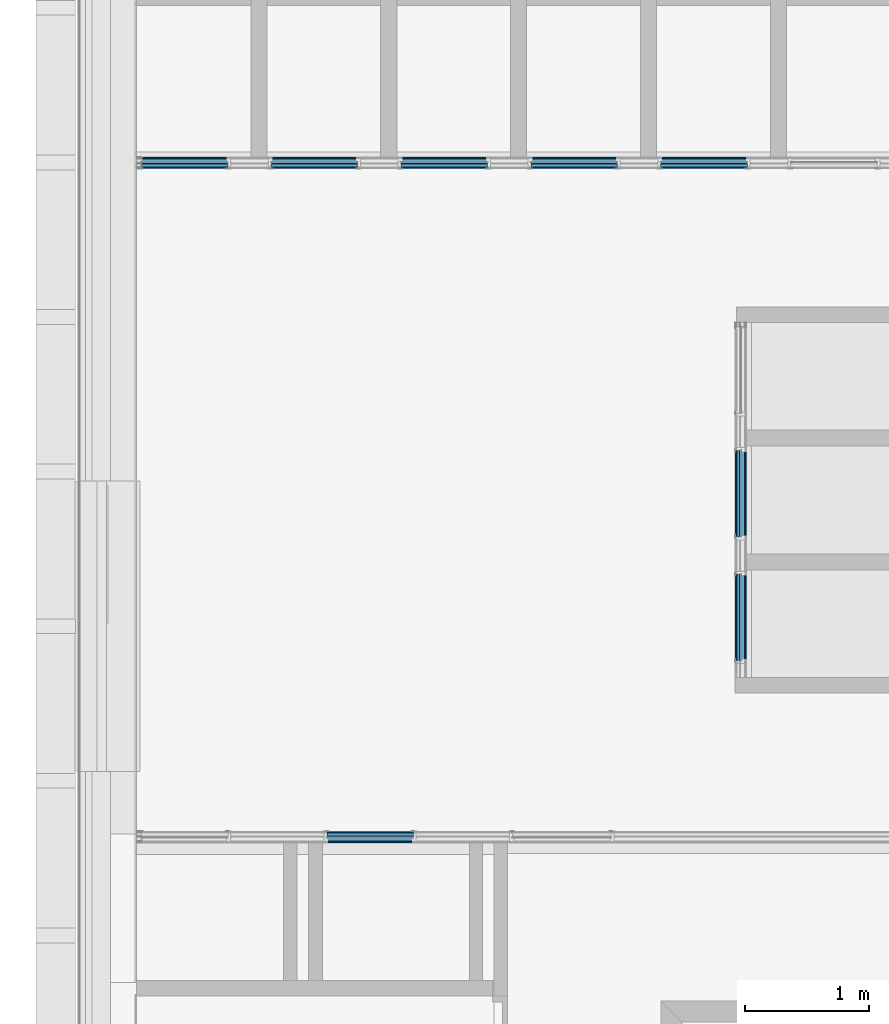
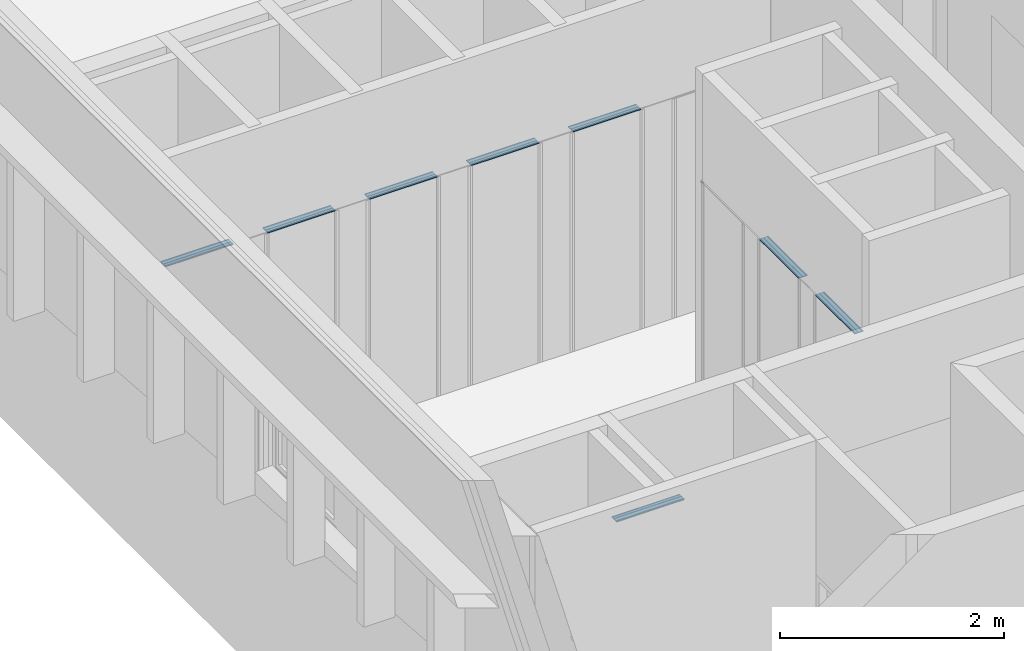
# One storey, part 27 of 89: 32 building element parts, 11 elements without a shape of their own.
"""IFC2X3 building model written with IfcOpenShell, lengths in millimetres."""

from ifc_helpers import new_model, entity, si_unit, converted_unit, derived_unit, money_unit, direction, frame, origin_with_axes, place, context, subcontext, project, spatial, faceted_brep, source, transform, mapped, material, type_object, element, aggregate, save


model = new_model("IFC2X3")

# Units and contexts
model_context = context("Model", 3, precision=0.01, world=origin_with_axes(), true_north=direction((0.0, 1.0)))
body_context = subcontext(model_context, "Body", "Model", "MODEL_VIEW")
ifc_project = project(units=[si_unit("LENGTHUNIT", "METRE", prefix="MILLI"), si_unit("AREAUNIT", "SQUARE_METRE"), si_unit("VOLUMEUNIT", "CUBIC_METRE"), converted_unit("PLANEANGLEUNIT", "DEGREE", entity("IfcPlaneAngleMeasure", 0.0174532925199), si_unit("PLANEANGLEUNIT", "RADIAN"), dimensions=[0, 0, 0, 0, 0, 0, 0]), si_unit("SOLIDANGLEUNIT", "STERADIAN"), money_unit("EUR"), converted_unit("TIMEUNIT", "Year", entity("IfcTimeMeasure", 31556926.0), si_unit("TIMEUNIT", "SECOND"), dimensions=[0, 0, 1, 0, 0, 0, 0]), si_unit("MASSUNIT", "GRAM", prefix="KILO"), si_unit("THERMODYNAMICTEMPERATUREUNIT", "DEGREE_CELSIUS"), si_unit("LUMINOUSINTENSITYUNIT", "LUMEN"), si_unit("ENERGYUNIT", "JOULE", prefix="MEGA"), derived_unit("THERMALCONDUCTANCEUNIT", [(si_unit("POWERUNIT", "WATT"), 1), (si_unit("LENGTHUNIT", "METRE"), -1), (si_unit("THERMODYNAMICTEMPERATUREUNIT", "KELVIN"), -1)]), derived_unit("SPECIFICHEATCAPACITYUNIT", [(si_unit("ENERGYUNIT", "JOULE"), 1), (si_unit("MASSUNIT", "GRAM", prefix="KILO"), -1), (si_unit("THERMODYNAMICTEMPERATUREUNIT", "KELVIN"), -1)]), derived_unit("MASSDENSITYUNIT", [(si_unit("MASSUNIT", "GRAM", prefix="KILO"), 1), (si_unit("VOLUMEUNIT", "CUBIC_METRE"), -1)])], contexts=[model_context])

# Site, building, storey
site_placement = place(None, origin_with_axes())
site = spatial("IfcSite", under=ifc_project, at=site_placement, Name="Puškini 31, Narva", CompositionType="ELEMENT")
building_placement = place(site_placement, origin_with_axes())
building = spatial("IfcBuilding", under=site, at=building_placement, Name="Narva Riigigümnaasium", CompositionType="ELEMENT")
storey_placement = place(building_placement, frame((0.0, 0.0, -3300.0), z_axis=(0.0, 0.0, 1.0), x_axis=(1.0, 0.0, 0.0)))
storey = spatial("IfcBuildingStorey", under=building, at=storey_placement, Name="1.korrus -3.3", CompositionType="ELEMENT", Elevation=-3300.0)

# Curtain wall, plates, building element parts
curtain_wall_type = type_object("IfcCurtainWallType", Name="Curtain Wall Type", PredefinedType="NOTDEFINED")
curtain_wall_1_placement = place(storey_placement, frame((33249.9999781, 201010.999711, -1.71671428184e-05), z_axis=(0.0, 0.0, 1.0), x_axis=(1.0, 0.0, 0.0)))
curtain_wall_1 = element("IfcCurtainWall", 1, at=curtain_wall_1_placement, inside=storey, type_object=curtain_wall_type, Name="SUS-02")
plate_type = type_object("IfcPlateType", Name="SA-Siseuksesüsteem-Paneel 700 x 10 x 0", PredefinedType="CURTAIN_PANEL")
plate_1_placement = place(curtain_wall_1_placement, frame((0.0, 0.0, 2395.00000263), z_axis=(0.0, 0.0, 1.0), x_axis=(0.0, -1.0, 0.0)))
plate_1 = element("IfcPlate", 2, at=plate_1_placement, type_object=plate_type, Name="Panel-SA-Siseuks-079", ObjectType="CURTAIN_PANEL")
ifc_material_1 = material(Name="MDF")
shared_shape_1 = source(origin_with_axes(), body_context, "Body", "Brep", [
    faceted_brep([(700.000000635, 10.0, 0.0), (0.0, 10.0, 0.0), (0.0, 10.0, 10.0), (700.000000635, 10.0, 10.0), (700.000000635, 0.0, 0.0), (0.0, 0.0, 0.0), (0.0, 0.0, 10.0), (700.000000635, 0.0, 10.0)], [[[0, 1, 2, 3]], [[0, 4, 5, 1]], [[1, 5, 6, 2]], [[3, 2, 6, 7]], [[4, 0, 3, 7]], [[5, 4, 7, 6]]]),
    faceted_brep([(700.000000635, 10.0, 84.0), (0.0, 10.0, 84.0), (0.0, 10.0, 92.0), (700.000000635, 10.0, 92.0), (700.000000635, 0.0, 84.0), (0.0, 0.0, 84.0), (0.0, 0.0, 92.0), (700.000000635, 0.0, 92.0)], [[[0, 1, 2, 3]], [[0, 4, 5, 1]], [[1, 5, 6, 2]], [[3, 2, 6, 7]], [[4, 0, 3, 7]], [[5, 4, 7, 6]]]),
])
building_element_part_1_placement = place(plate_1_placement, origin_with_axes())
building_element_part_1 = element("IfcBuildingElementPart", 3, at=building_element_part_1_placement, material=ifc_material_1, Name="MDF", context=body_context, shape_type="MappedRepresentation", body=[
    mapped(shared_shape_1, transform((350.000000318, 0.0, -5.0), x_axis=(-1.0, 0.0, 0.0), y_axis=(0.0, 0.0, 1.0), z_axis=(0.0, 1.0, 0.0))),
])
plate_2_placement = place(curtain_wall_1_placement, frame((0.0, 1000.00000032, 2395.00000263), z_axis=(0.0, 0.0, 1.0), x_axis=(0.0, -1.0, 0.0)))
plate_2 = element("IfcPlate", 4, at=plate_2_placement, type_object=plate_type, Name="Panel-SA-Siseuks-081", ObjectType="CURTAIN_PANEL")
aggregate(curtain_wall_1, [plate_1, plate_2])
building_element_part_2_placement = place(plate_2_placement, origin_with_axes())
building_element_part_2 = element("IfcBuildingElementPart", 5, at=building_element_part_2_placement, material=ifc_material_1, Name="MDF", context=body_context, shape_type="MappedRepresentation", body=[
    mapped(shared_shape_1, transform((350.0, 0.0, -5.0), x_axis=(-1.0, 0.0, 0.0), y_axis=(0.0, 0.0, 1.0), z_axis=(0.0, 1.0, 0.0))),
])

# Curtain wall, plate, building element part
curtain_wall_2_placement = place(storey_placement, frame((28798.9958137, 199279.999716, 0.0), z_axis=(0.0, 0.0, 1.0), x_axis=(1.0, 0.0, 0.0)))
curtain_wall_2 = element("IfcCurtainWall", 6, at=curtain_wall_2_placement, inside=storey, type_object=curtain_wall_type, Name="SUS-01")
plate_3_placement = place(curtain_wall_2_placement, frame((1500.00418599, 0.0, 2394.9999372), z_axis=(0.0, 0.0, 1.0), x_axis=(-1.0, 0.0, 0.0)))
plate_3 = element("IfcPlate", 7, at=plate_3_placement, type_object=plate_type, Name="Panel-SA-Siseuks-092", ObjectType="CURTAIN_PANEL")
aggregate(curtain_wall_2, [plate_3])
building_element_part_3_placement = place(plate_3_placement, origin_with_axes())
building_element_part_3 = element("IfcBuildingElementPart", 8, at=building_element_part_3_placement, material=ifc_material_1, Name="MDF", context=body_context, shape_type="MappedRepresentation", body=[
    mapped(shared_shape_1, transform((350.0, 0.0, -5.0), x_axis=(-1.0, 0.0, 0.0), y_axis=(0.0, 0.0, 1.0), z_axis=(0.0, 1.0, 0.0))),
])

# Curtain wall, plates, building element parts
curtain_wall_3_placement = place(storey_placement, frame((34541.9999996, 204639.999743, 1.06559201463e-05), z_axis=(0.0, 0.0, 1.0), x_axis=(1.0, 0.0, 0.0)))
curtain_wall_3 = element("IfcCurtainWall", 9, at=curtain_wall_3_placement, inside=storey, type_object=curtain_wall_type, Name="SUS-03")
plate_4_placement = place(curtain_wall_3_placement, frame((-1543.17516676, 0.0, 2394.99996419), z_axis=(0.0, 0.0, 1.0), x_axis=(1.0, 0.0, 0.0)))
plate_4 = element("IfcPlate", 10, at=plate_4_placement, type_object=plate_type, Name="Panel-SA-Siseuks-065", ObjectType="CURTAIN_PANEL")
building_element_part_4_placement = place(plate_4_placement, origin_with_axes())
building_element_part_4 = element("IfcBuildingElementPart", 11, at=building_element_part_4_placement, material=ifc_material_1, Name="MDF", context=body_context, shape_type="MappedRepresentation", body=[
    mapped(shared_shape_1, transform((350.0, 0.0, -5.00000532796), x_axis=(-1.0, 0.0, 0.0), y_axis=(0.0, 0.0, 1.0), z_axis=(0.0, 1.0, 0.0))),
])
plate_5_placement = place(curtain_wall_3_placement, frame((-2593.17516676, 0.0, 2394.99996419), z_axis=(0.0, 0.0, 1.0), x_axis=(1.0, 0.0, 0.0)))
plate_5 = element("IfcPlate", 12, at=plate_5_placement, type_object=plate_type, Name="Panel-SA-Siseuks-067", ObjectType="CURTAIN_PANEL")
building_element_part_5_placement = place(plate_5_placement, origin_with_axes())
building_element_part_5 = element("IfcBuildingElementPart", 13, at=building_element_part_5_placement, material=ifc_material_1, Name="MDF", context=body_context, shape_type="MappedRepresentation", body=[
    mapped(shared_shape_1, transform((350.0, 0.0, -5.00000532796), x_axis=(-1.0, 0.0, 0.0), y_axis=(0.0, 0.0, 1.0), z_axis=(0.0, 1.0, 0.0))),
])
plate_6_placement = place(curtain_wall_3_placement, frame((-3643.17516676, 0.0, 2394.99996419), z_axis=(0.0, 0.0, 1.0), x_axis=(1.0, 0.0, 0.0)))
plate_6 = element("IfcPlate", 14, at=plate_6_placement, type_object=plate_type, Name="Panel-SA-Siseuks-069", ObjectType="CURTAIN_PANEL")
building_element_part_6_placement = place(plate_6_placement, origin_with_axes())
building_element_part_6 = element("IfcBuildingElementPart", 15, at=building_element_part_6_placement, material=ifc_material_1, Name="MDF", context=body_context, shape_type="MappedRepresentation", body=[
    mapped(shared_shape_1, transform((350.0, 0.0, -5.00000532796), x_axis=(-1.0, 0.0, 0.0), y_axis=(0.0, 0.0, 1.0), z_axis=(0.0, 1.0, 0.0))),
])
plate_7_placement = place(curtain_wall_3_placement, frame((-4693.17516676, 0.0, 2394.99996419), z_axis=(0.0, 0.0, 1.0), x_axis=(1.0, 0.0, 0.0)))
plate_7 = element("IfcPlate", 16, at=plate_7_placement, type_object=plate_type, Name="Panel-SA-Siseuks-071", ObjectType="CURTAIN_PANEL")
building_element_part_7_placement = place(plate_7_placement, origin_with_axes())
building_element_part_7 = element("IfcBuildingElementPart", 17, at=building_element_part_7_placement, material=ifc_material_1, Name="MDF", context=body_context, shape_type="MappedRepresentation", body=[
    mapped(shared_shape_1, transform((350.0, 0.0, -5.00000532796), x_axis=(-1.0, 0.0, 0.0), y_axis=(0.0, 0.0, 1.0), z_axis=(0.0, 1.0, 0.0))),
])
plate_8_placement = place(curtain_wall_3_placement, frame((-5743.17516676, 0.0, 2394.99996419), z_axis=(0.0, 0.0, 1.0), x_axis=(1.0, 0.0, 0.0)))
plate_8 = element("IfcPlate", 18, at=plate_8_placement, type_object=plate_type, Name="Panel-SA-Siseuks-073", ObjectType="CURTAIN_PANEL")
aggregate(curtain_wall_3, [plate_4, plate_5, plate_6, plate_7, plate_8])
building_element_part_8_placement = place(plate_8_placement, origin_with_axes())
building_element_part_8 = element("IfcBuildingElementPart", 19, at=building_element_part_8_placement, material=ifc_material_1, Name="MDF", context=body_context, shape_type="MappedRepresentation", body=[
    mapped(shared_shape_1, transform((350.0, 0.0, -5.00000532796), x_axis=(-1.0, 0.0, 0.0), y_axis=(0.0, 0.0, 1.0), z_axis=(0.0, 1.0, 0.0))),
])

# Building element part
ifc_material_2 = material(Name="Õhkvahe")
shared_shape_2 = source(origin_with_axes(), body_context, "Body", "Brep", [
    faceted_brep([(700.000000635, 10.0, 10.0), (0.0, 10.0, 10.0), (0.0, 10.0, 12.0), (700.000000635, 10.0, 12.0), (700.000000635, 0.0, 10.0), (0.0, 0.0, 10.0), (0.0, 0.0, 12.0), (700.000000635, 0.0, 12.0)], [[[0, 1, 2, 3]], [[0, 4, 5, 1]], [[1, 5, 6, 2]], [[3, 2, 6, 7]], [[4, 0, 3, 7]], [[5, 4, 7, 6]]]),
    faceted_brep([(700.000000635, 10.0, 38.0), (0.0, 10.0, 38.0), (0.0, 10.0, 42.0), (700.000000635, 10.0, 42.0), (700.000000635, 0.0, 38.0), (0.0, 0.0, 38.0), (0.0, 0.0, 42.0), (700.000000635, 0.0, 42.0)], [[[0, 1, 2, 3]], [[0, 4, 5, 1]], [[1, 5, 6, 2]], [[3, 2, 6, 7]], [[4, 0, 3, 7]], [[5, 4, 7, 6]]]),
    faceted_brep([(700.000000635, 10.0, 79.0), (0.0, 10.0, 79.0), (0.0, 10.0, 84.0), (700.000000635, 10.0, 84.0), (700.000000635, 0.0, 79.0), (0.0, 0.0, 79.0), (0.0, 0.0, 84.0), (700.000000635, 0.0, 84.0)], [[[0, 1, 2, 3]], [[0, 4, 5, 1]], [[1, 5, 6, 2]], [[3, 2, 6, 7]], [[4, 0, 3, 7]], [[5, 4, 7, 6]]]),
])
building_element_part_9_placement = place(plate_1_placement, origin_with_axes())
building_element_part_9 = element("IfcBuildingElementPart", 20, at=building_element_part_9_placement, material=ifc_material_2, Name="Õhkvahe", context=body_context, shape_type="MappedRepresentation", body=[
    mapped(shared_shape_2, transform((350.000000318, 0.0, -5.0), x_axis=(-1.0, 0.0, 0.0), y_axis=(0.0, 0.0, 1.0), z_axis=(0.0, 1.0, 0.0))),
])

building_element_part_10_placement = place(plate_2_placement, origin_with_axes())
building_element_part_10 = element("IfcBuildingElementPart", 21, at=building_element_part_10_placement, material=ifc_material_2, Name="Õhkvahe", context=body_context, shape_type="MappedRepresentation", body=[
    mapped(shared_shape_2, transform((350.0, 0.0, -5.0), x_axis=(-1.0, 0.0, 0.0), y_axis=(0.0, 0.0, 1.0), z_axis=(0.0, 1.0, 0.0))),
])

building_element_part_11_placement = place(plate_3_placement, origin_with_axes())
building_element_part_11 = element("IfcBuildingElementPart", 22, at=building_element_part_11_placement, material=ifc_material_2, Name="Õhkvahe", context=body_context, shape_type="MappedRepresentation", body=[
    mapped(shared_shape_2, transform((350.0, 0.0, -5.0), x_axis=(-1.0, 0.0, 0.0), y_axis=(0.0, 0.0, 1.0), z_axis=(0.0, 1.0, 0.0))),
])

building_element_part_12_placement = place(plate_4_placement, origin_with_axes())
building_element_part_12 = element("IfcBuildingElementPart", 23, at=building_element_part_12_placement, material=ifc_material_2, Name="Õhkvahe", context=body_context, shape_type="MappedRepresentation", body=[
    mapped(shared_shape_2, transform((350.0, 0.0, -5.00000532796), x_axis=(-1.0, 0.0, 0.0), y_axis=(0.0, 0.0, 1.0), z_axis=(0.0, 1.0, 0.0))),
])

building_element_part_13_placement = place(plate_5_placement, origin_with_axes())
building_element_part_13 = element("IfcBuildingElementPart", 24, at=building_element_part_13_placement, material=ifc_material_2, Name="Õhkvahe", context=body_context, shape_type="MappedRepresentation", body=[
    mapped(shared_shape_2, transform((350.0, 0.0, -5.00000532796), x_axis=(-1.0, 0.0, 0.0), y_axis=(0.0, 0.0, 1.0), z_axis=(0.0, 1.0, 0.0))),
])

building_element_part_14_placement = place(plate_6_placement, origin_with_axes())
building_element_part_14 = element("IfcBuildingElementPart", 25, at=building_element_part_14_placement, material=ifc_material_2, Name="Õhkvahe", context=body_context, shape_type="MappedRepresentation", body=[
    mapped(shared_shape_2, transform((350.0, 0.0, -5.00000532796), x_axis=(-1.0, 0.0, 0.0), y_axis=(0.0, 0.0, 1.0), z_axis=(0.0, 1.0, 0.0))),
])

building_element_part_15_placement = place(plate_7_placement, origin_with_axes())
building_element_part_15 = element("IfcBuildingElementPart", 26, at=building_element_part_15_placement, material=ifc_material_2, Name="Õhkvahe", context=body_context, shape_type="MappedRepresentation", body=[
    mapped(shared_shape_2, transform((350.0, 0.0, -5.00000532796), x_axis=(-1.0, 0.0, 0.0), y_axis=(0.0, 0.0, 1.0), z_axis=(0.0, 1.0, 0.0))),
])

building_element_part_16_placement = place(plate_8_placement, origin_with_axes())
building_element_part_16 = element("IfcBuildingElementPart", 27, at=building_element_part_16_placement, material=ifc_material_2, Name="Õhkvahe", context=body_context, shape_type="MappedRepresentation", body=[
    mapped(shared_shape_2, transform((350.0, 0.0, -5.00000532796), x_axis=(-1.0, 0.0, 0.0), y_axis=(0.0, 0.0, 1.0), z_axis=(0.0, 1.0, 0.0))),
])

ifc_material_3 = material(Name="Kipsplaat")
shared_shape_3 = source(origin_with_axes(), body_context, "Body", "Brep", [
    faceted_brep([(700.000000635, 10.0, 12.0), (0.0, 10.0, 12.0), (0.0, 10.0, 25.0), (700.000000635, 10.0, 25.0), (700.000000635, 0.0, 12.0), (0.0, 0.0, 12.0), (0.0, 0.0, 25.0), (700.000000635, 0.0, 25.0)], [[[0, 1, 2, 3]], [[0, 4, 5, 1]], [[1, 5, 6, 2]], [[3, 2, 6, 7]], [[4, 0, 3, 7]], [[5, 4, 7, 6]]]),
    faceted_brep([(700.000000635, 10.0, 25.0), (0.0, 10.0, 25.0), (0.0, 10.0, 38.0), (700.000000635, 10.0, 38.0), (700.000000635, 0.0, 25.0), (0.0, 0.0, 25.0), (0.0, 0.0, 38.0), (700.000000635, 0.0, 38.0)], [[[0, 1, 2, 3]], [[0, 4, 5, 1]], [[1, 5, 6, 2]], [[3, 2, 6, 7]], [[4, 0, 3, 7]], [[5, 4, 7, 6]]]),
])
building_element_part_17_placement = place(plate_1_placement, origin_with_axes())
building_element_part_17 = element("IfcBuildingElementPart", 28, at=building_element_part_17_placement, material=ifc_material_3, Name="Kipsplaat", context=body_context, shape_type="MappedRepresentation", body=[
    mapped(shared_shape_3, transform((350.000000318, 0.0, -5.0), x_axis=(-1.0, 0.0, 0.0), y_axis=(0.0, 0.0, 1.0), z_axis=(0.0, 1.0, 0.0))),
])

building_element_part_18_placement = place(plate_2_placement, origin_with_axes())
building_element_part_18 = element("IfcBuildingElementPart", 29, at=building_element_part_18_placement, material=ifc_material_3, Name="Kipsplaat", context=body_context, shape_type="MappedRepresentation", body=[
    mapped(shared_shape_3, transform((350.0, 0.0, -5.0), x_axis=(-1.0, 0.0, 0.0), y_axis=(0.0, 0.0, 1.0), z_axis=(0.0, 1.0, 0.0))),
])

building_element_part_19_placement = place(plate_3_placement, origin_with_axes())
building_element_part_19 = element("IfcBuildingElementPart", 30, at=building_element_part_19_placement, material=ifc_material_3, Name="Kipsplaat", context=body_context, shape_type="MappedRepresentation", body=[
    mapped(shared_shape_3, transform((350.0, 0.0, -5.0), x_axis=(-1.0, 0.0, 0.0), y_axis=(0.0, 0.0, 1.0), z_axis=(0.0, 1.0, 0.0))),
])

building_element_part_20_placement = place(plate_4_placement, origin_with_axes())
building_element_part_20 = element("IfcBuildingElementPart", 31, at=building_element_part_20_placement, material=ifc_material_3, Name="Kipsplaat", context=body_context, shape_type="MappedRepresentation", body=[
    mapped(shared_shape_3, transform((350.0, 0.0, -5.00000532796), x_axis=(-1.0, 0.0, 0.0), y_axis=(0.0, 0.0, 1.0), z_axis=(0.0, 1.0, 0.0))),
])

building_element_part_21_placement = place(plate_5_placement, origin_with_axes())
building_element_part_21 = element("IfcBuildingElementPart", 32, at=building_element_part_21_placement, material=ifc_material_3, Name="Kipsplaat", context=body_context, shape_type="MappedRepresentation", body=[
    mapped(shared_shape_3, transform((350.0, 0.0, -5.00000532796), x_axis=(-1.0, 0.0, 0.0), y_axis=(0.0, 0.0, 1.0), z_axis=(0.0, 1.0, 0.0))),
])

building_element_part_22_placement = place(plate_6_placement, origin_with_axes())
building_element_part_22 = element("IfcBuildingElementPart", 33, at=building_element_part_22_placement, material=ifc_material_3, Name="Kipsplaat", context=body_context, shape_type="MappedRepresentation", body=[
    mapped(shared_shape_3, transform((350.0, 0.0, -5.00000532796), x_axis=(-1.0, 0.0, 0.0), y_axis=(0.0, 0.0, 1.0), z_axis=(0.0, 1.0, 0.0))),
])

building_element_part_23_placement = place(plate_7_placement, origin_with_axes())
building_element_part_23 = element("IfcBuildingElementPart", 34, at=building_element_part_23_placement, material=ifc_material_3, Name="Kipsplaat", context=body_context, shape_type="MappedRepresentation", body=[
    mapped(shared_shape_3, transform((350.0, 0.0, -5.00000532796), x_axis=(-1.0, 0.0, 0.0), y_axis=(0.0, 0.0, 1.0), z_axis=(0.0, 1.0, 0.0))),
])

building_element_part_24_placement = place(plate_8_placement, origin_with_axes())
building_element_part_24 = element("IfcBuildingElementPart", 35, at=building_element_part_24_placement, material=ifc_material_3, Name="Kipsplaat", context=body_context, shape_type="MappedRepresentation", body=[
    mapped(shared_shape_3, transform((350.0, 0.0, -5.00000532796), x_axis=(-1.0, 0.0, 0.0), y_axis=(0.0, 0.0, 1.0), z_axis=(0.0, 1.0, 0.0))),
])

ifc_material_4 = material(Name="Klaasvill")
shared_shape_4 = source(origin_with_axes(), body_context, "Body", "Brep", [
    faceted_brep([(700.000000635, 10.0, 42.0), (0.0, 10.0, 42.0), (0.0, 10.0, 79.0), (700.000000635, 10.0, 79.0), (700.000000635, 0.0, 42.0), (0.0, 0.0, 42.0), (0.0, 0.0, 79.0), (700.000000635, 0.0, 79.0)], [[[0, 1, 2, 3]], [[0, 4, 5, 1]], [[1, 5, 6, 2]], [[3, 2, 6, 7]], [[4, 0, 3, 7]], [[5, 4, 7, 6]]]),
])
building_element_part_25_placement = place(plate_1_placement, origin_with_axes())
building_element_part_25 = element("IfcBuildingElementPart", 36, at=building_element_part_25_placement, material=ifc_material_4, Name="Klaasvill", context=body_context, shape_type="MappedRepresentation", body=[
    mapped(shared_shape_4, transform((350.000000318, 0.0, -5.0), x_axis=(-1.0, 0.0, 0.0), y_axis=(0.0, 0.0, 1.0), z_axis=(0.0, 1.0, 0.0))),
])

aggregate(plate_1, [building_element_part_1, building_element_part_9, building_element_part_17, building_element_part_25])

building_element_part_26_placement = place(plate_2_placement, origin_with_axes())
building_element_part_26 = element("IfcBuildingElementPart", 37, at=building_element_part_26_placement, material=ifc_material_4, Name="Klaasvill", context=body_context, shape_type="MappedRepresentation", body=[
    mapped(shared_shape_4, transform((350.0, 0.0, -5.0), x_axis=(-1.0, 0.0, 0.0), y_axis=(0.0, 0.0, 1.0), z_axis=(0.0, 1.0, 0.0))),
])

aggregate(plate_2, [building_element_part_2, building_element_part_10, building_element_part_18, building_element_part_26])

building_element_part_27_placement = place(plate_3_placement, origin_with_axes())
building_element_part_27 = element("IfcBuildingElementPart", 38, at=building_element_part_27_placement, material=ifc_material_4, Name="Klaasvill", context=body_context, shape_type="MappedRepresentation", body=[
    mapped(shared_shape_4, transform((350.0, 0.0, -5.0), x_axis=(-1.0, 0.0, 0.0), y_axis=(0.0, 0.0, 1.0), z_axis=(0.0, 1.0, 0.0))),
])

aggregate(plate_3, [building_element_part_3, building_element_part_11, building_element_part_19, building_element_part_27])

building_element_part_28_placement = place(plate_4_placement, origin_with_axes())
building_element_part_28 = element("IfcBuildingElementPart", 39, at=building_element_part_28_placement, material=ifc_material_4, Name="Klaasvill", context=body_context, shape_type="MappedRepresentation", body=[
    mapped(shared_shape_4, transform((350.0, 0.0, -5.00000532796), x_axis=(-1.0, 0.0, 0.0), y_axis=(0.0, 0.0, 1.0), z_axis=(0.0, 1.0, 0.0))),
])

aggregate(plate_4, [building_element_part_4, building_element_part_12, building_element_part_20, building_element_part_28])

building_element_part_29_placement = place(plate_5_placement, origin_with_axes())
building_element_part_29 = element("IfcBuildingElementPart", 40, at=building_element_part_29_placement, material=ifc_material_4, Name="Klaasvill", context=body_context, shape_type="MappedRepresentation", body=[
    mapped(shared_shape_4, transform((350.0, 0.0, -5.00000532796), x_axis=(-1.0, 0.0, 0.0), y_axis=(0.0, 0.0, 1.0), z_axis=(0.0, 1.0, 0.0))),
])

aggregate(plate_5, [building_element_part_5, building_element_part_13, building_element_part_21, building_element_part_29])

building_element_part_30_placement = place(plate_6_placement, origin_with_axes())
building_element_part_30 = element("IfcBuildingElementPart", 41, at=building_element_part_30_placement, material=ifc_material_4, Name="Klaasvill", context=body_context, shape_type="MappedRepresentation", body=[
    mapped(shared_shape_4, transform((350.0, 0.0, -5.00000532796), x_axis=(-1.0, 0.0, 0.0), y_axis=(0.0, 0.0, 1.0), z_axis=(0.0, 1.0, 0.0))),
])

aggregate(plate_6, [building_element_part_6, building_element_part_14, building_element_part_22, building_element_part_30])

building_element_part_31_placement = place(plate_7_placement, origin_with_axes())
building_element_part_31 = element("IfcBuildingElementPart", 42, at=building_element_part_31_placement, material=ifc_material_4, Name="Klaasvill", context=body_context, shape_type="MappedRepresentation", body=[
    mapped(shared_shape_4, transform((350.0, 0.0, -5.00000532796), x_axis=(-1.0, 0.0, 0.0), y_axis=(0.0, 0.0, 1.0), z_axis=(0.0, 1.0, 0.0))),
])

aggregate(plate_7, [building_element_part_7, building_element_part_15, building_element_part_23, building_element_part_31])

building_element_part_32_placement = place(plate_8_placement, origin_with_axes())
building_element_part_32 = element("IfcBuildingElementPart", 43, at=building_element_part_32_placement, material=ifc_material_4, Name="Klaasvill", context=body_context, shape_type="MappedRepresentation", body=[
    mapped(shared_shape_4, transform((350.0, 0.0, -5.00000532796), x_axis=(-1.0, 0.0, 0.0), y_axis=(0.0, 0.0, 1.0), z_axis=(0.0, 1.0, 0.0))),
])

aggregate(plate_8, [building_element_part_8, building_element_part_16, building_element_part_24, building_element_part_32])

save(model, "model.ifc")
